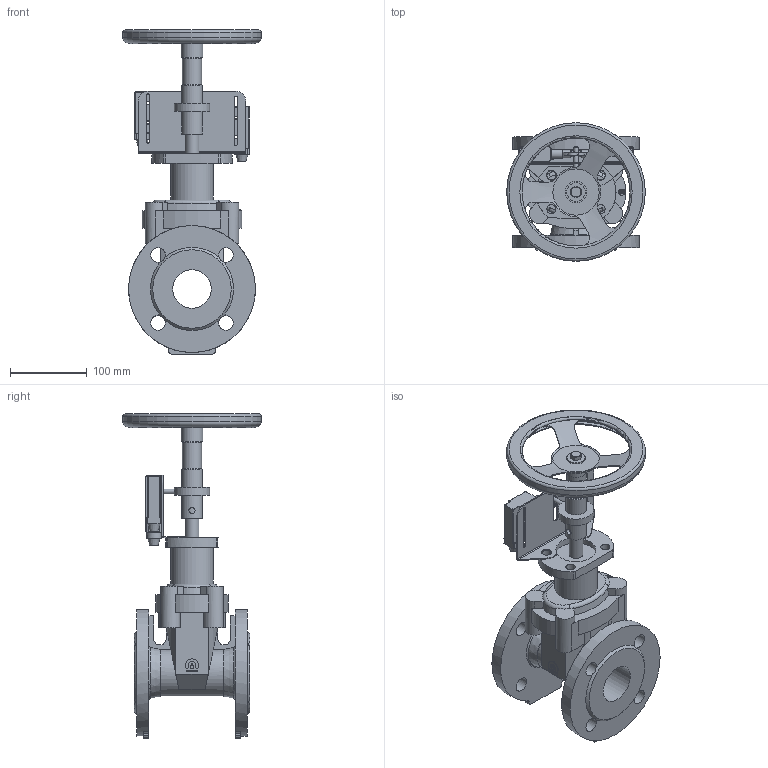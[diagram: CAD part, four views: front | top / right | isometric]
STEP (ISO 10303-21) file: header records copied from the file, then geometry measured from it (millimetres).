
FILE_DESCRIPTION(('STEP AP203'), '1');
FILE_NAME('Çàäâèæêà 47GV.M DN50 ñ ìàõîâèêîì è ÓÊÏ', '', ('UNSPECIFIED'), ('UNSPECIFIED'), 'ASCON STEP Converter 1.6', 'ASCON Math Kernel', '');
FILE_SCHEMA(('CONFIG_CONTROL_DESIGN'));
Length unit declared in the file: millimetre
Bounding box: 180 x 180 x 421 mm (x, y, z)
Volume: 1861846.4 mm3; surface area: 330566 mm2
Topology: 2 solids, 2 shells, 421 faces, 1106 edges, 707 vertices
Faces by surface type: plane 215, cylinder 165, cone 21, torus 16, sphere 4
Full cylindrical faces by diameter (mm): 4 x4, 4.917 x1, 6 x1, 8 x2, 12 x7, 13 x2, 14 x2, 18 x1, 19 x8, 24 x1, 25 x1, 27 x2, 28 x1, 46 x1, 50 x1, 52 x1, 55 x1, 143 x1, 165 x2, 177 x1, 180 x1
Entity records: 19587 total; most frequent: CARTESIAN_POINT 5845, DIRECTION 2182, ORIENTED_EDGE 2076, EDGE_CURVE 1038, AXIS2_PLACEMENT_3D 834, VERTEX_POINT 707, EDGE_LOOP 555, LINE 514
